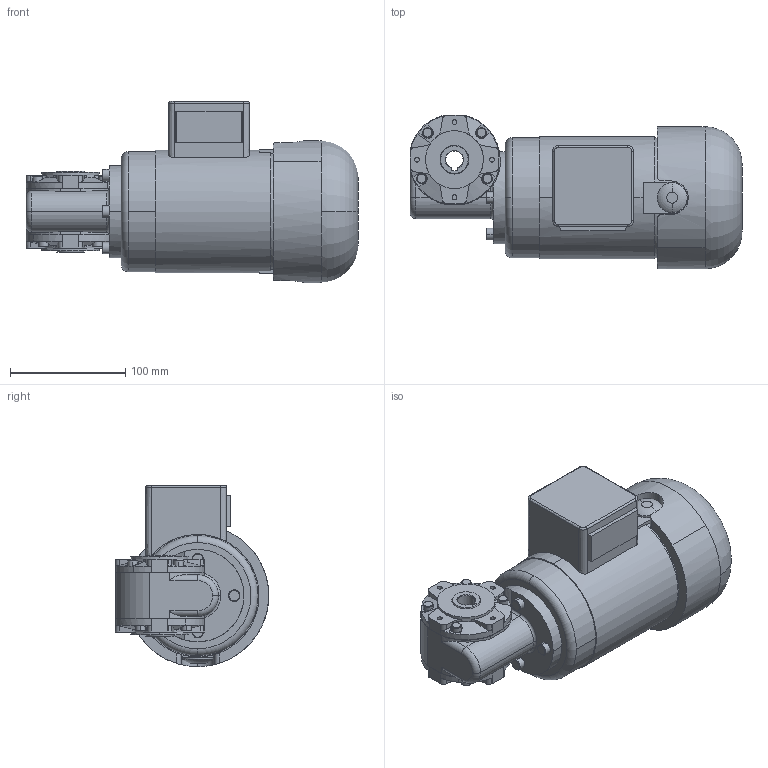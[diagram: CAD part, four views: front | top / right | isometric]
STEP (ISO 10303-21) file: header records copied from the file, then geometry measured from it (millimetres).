
FILE_DESCRIPTION(('OneSpaceDesigner STEP Export'),'2;1');
FILE_NAME('KGOG61-62_GB130_H.stp','2008-08-18T14:44:02',(''),(''),'OneSpace Designer STEP processor (Jan. 2003) for AP214(CD)(Solid Model)','OneSpace Designer 12.01D 09-Jul-2004 (C) CoCreate Software GmbH','');
FILE_SCHEMA(('AUTOMOTIVE_DESIGN_CC2 {1 2 10303 214 -1 1 5 1}'));
Length unit declared in the file: millimetre
Products named in the file (2): KGOG61-62_GB130_H
Assembly tree (1 placements, depth 2):
  KGOG61-62_GB130_H
    KGOG61-62_GB130_H
Bounding box: 287.5 x 133 x 157 mm (x, y, z)
Volume: 2551521.9 mm3; surface area: 138661.3 mm2
Topology: 1 solids, 1 shells, 351 faces, 904 edges, 583 vertices
Faces by surface type: cylinder 151, plane 128, cone 48, torus 12, bspline 8, extrusion 4
Entity records: 18815 total; most frequent: CARTESIAN_POINT 11100, ORIENTED_EDGE 1808, DIRECTION 1238, EDGE_CURVE 904, VERTEX_POINT 583, AXIS2_PLACEMENT_3D 427, VECTOR 384, EDGE_LOOP 381
